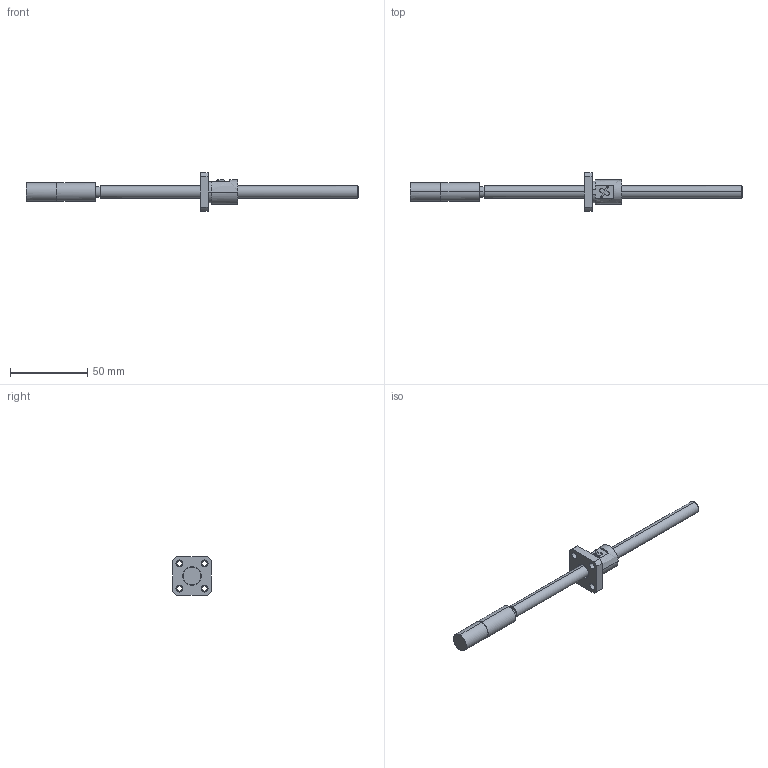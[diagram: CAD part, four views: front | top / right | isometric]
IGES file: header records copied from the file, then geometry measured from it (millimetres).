
Global section: file name: No Iges File Name specified; native system: AutoDesk Inventor R10; preprocessor: AutoDesk Inventor Iges Exporter R10; author: No Author specified; organization: No Organization specified; date: 20101224.135502; units: millimetre
Bounding box: 215 x 25 x 25 mm (x, y, z)
Surface area: 9667.3 mm2 (no closed solid volume)
Topology: 0 solids, 0 shells, 76 faces, 544 edges, 544 vertices
Faces by surface type: bspline 76
